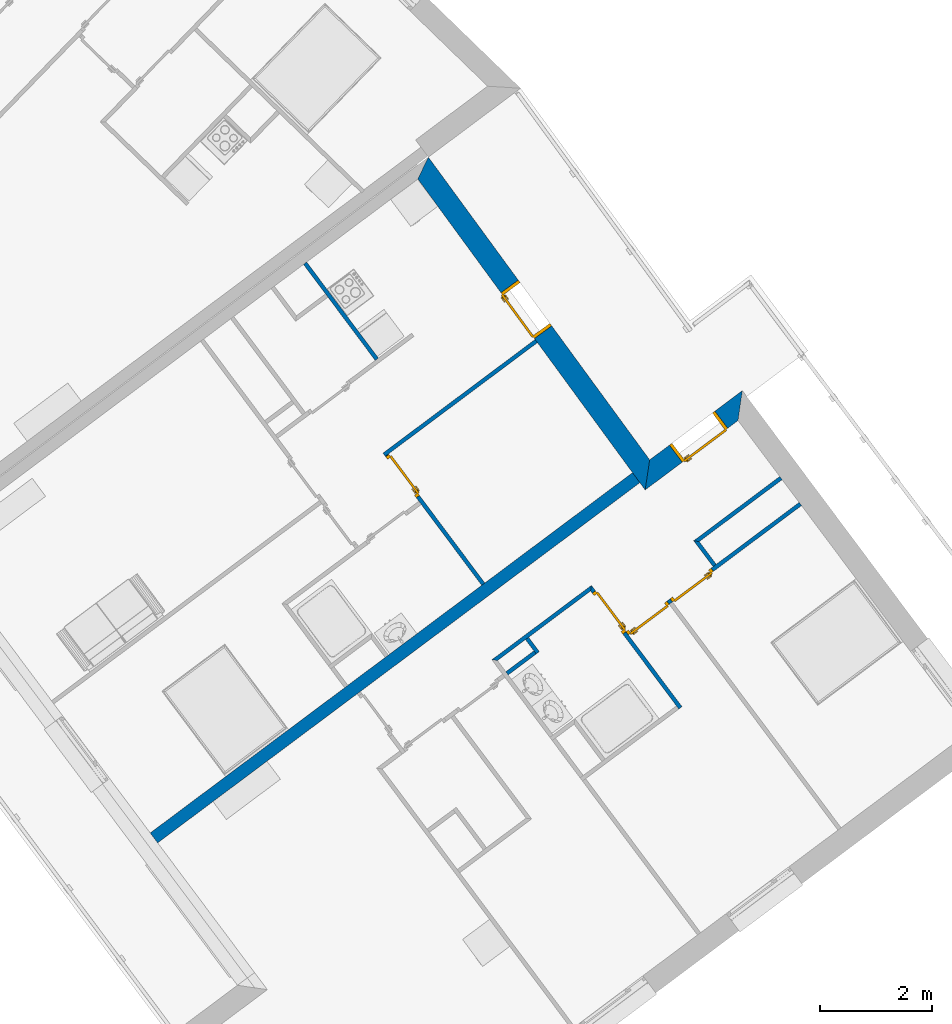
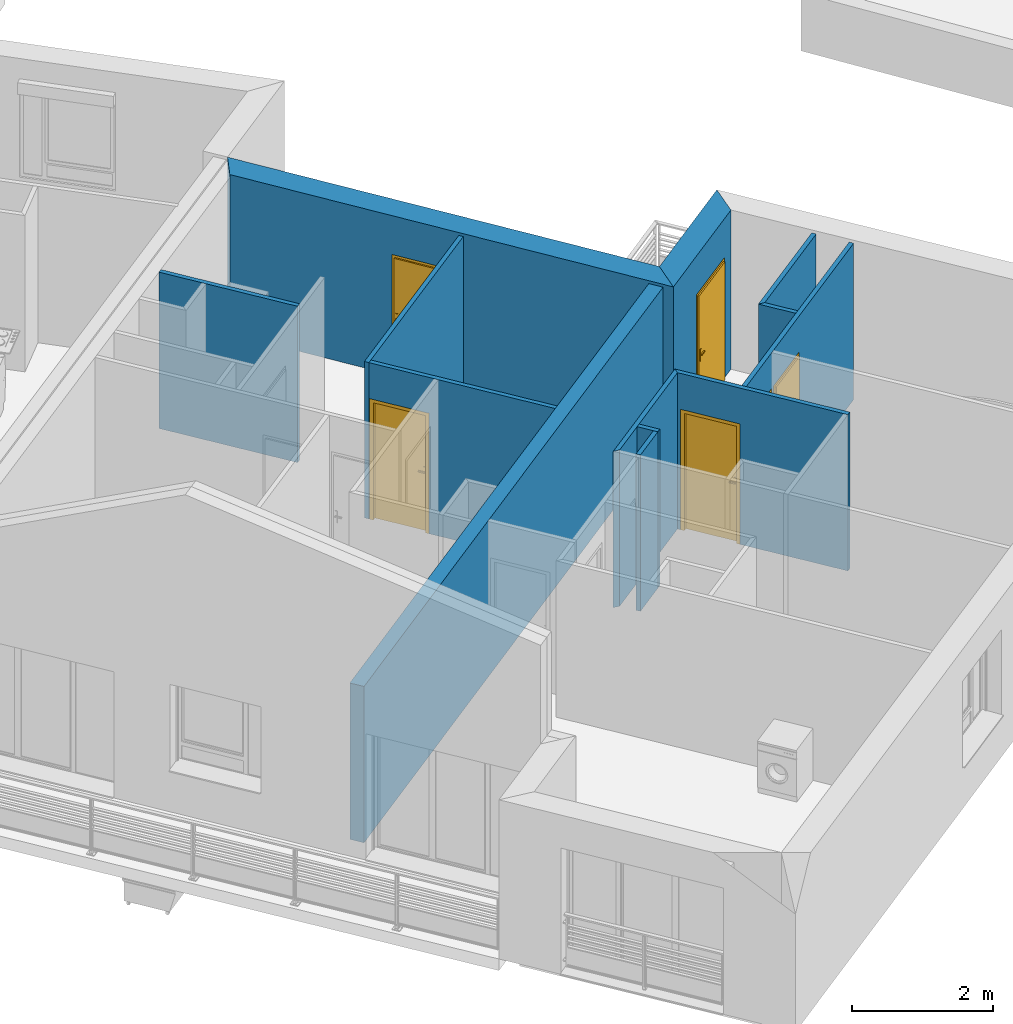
# One storey, part 7 of 121: 13 walls, 6 doors, 6 openings.
"""IFC2X3 building model written with IfcOpenShell, lengths in metres."""

from ifc_helpers import new_model, entity, si_unit, converted_unit, derived_unit, money_unit, direction, frame, origin_with_axes, origin_2d_with_axis, place, context, subcontext, project, spatial, polyline, rectangle, outline, extrude, faceted_brep, source, transform, mapped, material, layer, layer_set, layer_usage, type_object, element, fill, save


model = new_model("IFC2X3")

# Units and contexts
model_context = context("Model", 3, precision=1e-05, world=origin_with_axes(), true_north=direction((0.0, 1.0)))
body_context = subcontext(model_context, "Body", "Model", "MODEL_VIEW")
ifc_project = project(units=[si_unit("LENGTHUNIT", "METRE"), si_unit("AREAUNIT", "SQUARE_METRE"), si_unit("VOLUMEUNIT", "CUBIC_METRE"), converted_unit("PLANEANGLEUNIT", "DEGREE", entity("IfcPlaneAngleMeasure", 0.0174532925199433), si_unit("PLANEANGLEUNIT", "RADIAN"), dimensions=[0, 0, 0, 0, 0, 0, 0]), money_unit("CHF"), converted_unit("TIMEUNIT", "Year", entity("IfcTimeMeasure", 31557600.0), si_unit("TIMEUNIT", "SECOND"), dimensions=[0, 0, 1, 0, 0, 0, 0]), si_unit("MASSUNIT", "GRAM", prefix="KILO"), si_unit("THERMODYNAMICTEMPERATUREUNIT", "DEGREE_CELSIUS"), si_unit("LUMINOUSINTENSITYUNIT", "LUMEN"), si_unit("ENERGYUNIT", "JOULE", prefix="MEGA"), derived_unit("THERMALCONDUCTANCEUNIT", [(si_unit("POWERUNIT", "WATT"), 1), (si_unit("LENGTHUNIT", "METRE"), -1), (si_unit("THERMODYNAMICTEMPERATUREUNIT", "KELVIN"), -1)]), derived_unit("SPECIFICHEATCAPACITYUNIT", [(si_unit("ENERGYUNIT", "JOULE"), 1), (si_unit("MASSUNIT", "GRAM", prefix="KILO"), -1), (si_unit("THERMODYNAMICTEMPERATUREUNIT", "KELVIN"), -1)]), derived_unit("MASSDENSITYUNIT", [(si_unit("MASSUNIT", "GRAM", prefix="KILO"), 1), (si_unit("VOLUMEUNIT", "CUBIC_METRE"), -1)])], contexts=[model_context])

# Site, building, storey
site_placement = place(None, origin_with_axes())
site = spatial("IfcSite", under=ifc_project, at=site_placement, Name="Site", CompositionType="ELEMENT")
building_placement = place(site_placement, origin_with_axes())
building = spatial("IfcBuilding", under=site, at=building_placement, Name="Bâtiment", CompositionType="ELEMENT")
storey_placement = place(building_placement, frame((0.0, 0.0, 2.75), z_axis=(0.0, 0.0, 1.0), x_axis=(1.0, 0.0, 0.0)))
storey = spatial("IfcBuildingStorey", under=building, at=storey_placement, Name="Etage 1", CompositionType="ELEMENT", Elevation=2.75)

# Walls
ifc_material_1 = material(Name="Hachure solide 268963992")
ifc_layer_1 = layer(ifc_material_1, 0.07, ventilated="UNKNOWN")
ifc_layer_set_1 = layer_set([ifc_layer_1], Name="Cloison 70 0826278243")
ifc_layer_usage_1 = layer_usage(ifc_layer_set_1, "AXIS2", "NEGATIVE", 0.0)
wall_type_1 = type_object("IfcWallType", Name="Cloison 70 0826278243 70", PredefinedType="NOTDEFINED")
wall_1_placement = place(storey_placement, frame((9539.25298675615, -1078.22025807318, 57.7), z_axis=(0.0, 0.0, 1.0), x_axis=(0.5984464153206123, -0.8011628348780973, 0.0)))
element("IfcWallStandardCase", 1, at=wall_1_placement, inside=storey, type_object=wall_type_1, material=ifc_layer_usage_1, Name="Mur-149", context=body_context, shape_type="SweptSolid", body=[
    extrude(outline(polyline([(0.07000000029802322, -0.06999999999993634), (0.3899999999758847, -0.07000000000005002), (0.3899999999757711, 0.0), (0.07000000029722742, 0.0), (0.07000000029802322, -0.06999999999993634)])), origin_with_axes(), (0.0, 0.0, 1.0), 2.7),
])
ifc_layer_usage_2 = layer_usage(ifc_layer_set_1, "AXIS2", "NEGATIVE", 0.0)
wall_2_placement = place(storey_placement, frame((9538.888881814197, -1078.891653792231, 57.7), z_axis=(0.0, 0.0, 1.0), x_axis=(0.8011628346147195, 0.598446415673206, 0.0)))
element("IfcWallStandardCase", 2, at=wall_2_placement, inside=storey, type_object=wall_type_1, material=ifc_layer_usage_2, Name="Mur-149", context=body_context, shape_type="SweptSolid", body=[
    extrude(outline(polyline([(0.0, -0.07000000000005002), (0.6235017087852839, -0.07000000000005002), (0.623501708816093, 0.0), (0.0, 0.0), (0.0, -0.07000000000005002)])), origin_with_axes(), (0.0, 0.0, 1.0), 2.7),
])
ifc_layer_usage_3 = layer_usage(ifc_layer_set_1, "AXIS2", "NEGATIVE", 0.0)
wall_3_placement = place(storey_placement, frame((9539.757479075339, -1072.80087057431, 57.7), z_axis=(0.0, 0.0, 1.0), x_axis=(-0.8011623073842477, -0.5984471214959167, 0.0)))
element("IfcWallStandardCase", 3, at=wall_3_placement, inside=storey, type_object=wall_type_1, material=ifc_layer_usage_3, Name="Mur-149", context=body_context, shape_type="SweptSolid", body=[
    extrude(outline(polyline([(0.3793022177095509, -0.06999999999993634), (3.763144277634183, -0.06999999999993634), (3.763144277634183, 0.0), (0.3800199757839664, 0.0), (0.3793022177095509, -0.06999999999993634)])), origin_with_axes(), (0.0, 0.0, 1.0), 2.7),
])

# Wall, opening, door
ifc_layer_usage_4 = layer_usage(ifc_layer_set_1, "AXIS2", "NEGATIVE", 0.0)
wall_4_placement = place(storey_placement, frame((9536.798671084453, -1075.011022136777, 57.7), z_axis=(0.0, 0.0, 1.0), x_axis=(0.5984464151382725, -0.8011628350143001, 0.0)))
wall_4 = element("IfcWallStandardCase", 4, at=wall_4_placement, inside=storey, type_object=wall_type_1, material=ifc_layer_usage_4, Name="Mur-149", context=body_context, shape_type="SweptSolid", body=[
    extrude(outline(polyline([(6.146649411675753e-08, -0.07000000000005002), (2.869896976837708, -0.07000000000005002), (2.869896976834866, 0.0), (-2.499973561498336e-10, 0.0), (6.146649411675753e-08, -0.07000000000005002)])), origin_with_axes(), (0.0, 0.0, 1.0), 2.7),
])
opening_1_placement = place(wall_4_placement, frame((0.4678461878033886, 0.0, 0.0), z_axis=(0.0, 0.0, 1.0), x_axis=(1.0, 0.0, 0.0)))
opening_1 = element("IfcOpeningElement", 5, at=opening_1_placement, cuts=wall_4, Name="Por-308", context=body_context, shape_type="SweptSolid", body=[
    extrude(rectangle(XDim=0.9099999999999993, YDim=2.079999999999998, at=origin_2d_with_axis()), frame((0.0, -0.07000000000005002, 1.039999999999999), z_axis=(0.0, -1.0, 0.0), x_axis=(-1.0, 0.0, 0.0)), (0.0, 0.0, -1.0), 0.14),
])
door_style = type_object("IfcDoorStyle", Name="Porte_1v", ConstructionType="NOTDEFINED", OperationType="NOTDEFINED", ParameterTakesPrecedence=False, Sizeable=False)
shared_shape_1 = source(origin_with_axes(), body_context, "Body", "Brep", [
    faceted_brep([(-0.455, 0.0, 0.0), (-0.455, 0.0, 2.08), (0.455, 0.0, 2.08), (0.455, 0.0, 0.0), (0.415, 0.0, 0.0), (0.415, 0.0, 2.04), (-0.415, 0.0, 2.04), (-0.415, 0.0, 0.0), (-0.455, -0.07, 0.0), (-0.455, -0.07, 2.08), (0.455, -0.07, 2.08), (0.455, -0.07, 0.0), (0.4, -0.07, 0.0), (0.4, -0.015, 0.0), (0.415, -0.015, 0.0), (0.415, -0.015, 2.04), (-0.415, -0.015, 2.04), (-0.415, -0.015, 0.0), (-0.4, -0.015, 0.0), (-0.4, -0.07, 0.0), (-0.4, -0.07, 2.025), (0.4, -0.07, 2.025), (0.4, -0.015, 2.025), (-0.4, -0.015, 2.025)], [[[0, 1, 2, 3, 4, 5, 6, 7]], [[8, 9, 1, 0]], [[9, 10, 2, 1]], [[10, 11, 3, 2]], [[3, 11, 12, 13, 14, 4]], [[5, 4, 14, 15]], [[6, 5, 15, 16]], [[7, 6, 16, 17]], [[0, 7, 17, 18, 19, 8]], [[19, 20, 21, 12, 11, 10, 9, 8]], [[22, 13, 12, 21]], [[17, 16, 15, 14, 13, 22, 23, 18]], [[18, 23, 20, 19]], [[23, 22, 21, 20]]]),
    faceted_brep([(0.35, -0.015, 0.9), (0.35, -0.015, 1.1), (0.39, -0.015, 1.1), (0.39, -0.015, 0.9), (0.35, -0.025, 0.9), (0.35, -0.025, 1.1), (0.39, -0.025, 1.1), (0.39, -0.025, 0.9)], [[[0, 1, 2, 3]], [[0, 4, 5, 1]], [[1, 5, 6, 2]], [[2, 6, 7, 3]], [[3, 7, 4, 0]], [[7, 6, 5, 4]]]),
    faceted_brep([(0.28, -0.025, 1.0), (0.28, -0.025, 1.02), (0.38, -0.025, 1.02), (0.38, -0.025, 1.0), (0.28, -0.045, 1.0), (0.28, -0.045, 1.02), (0.38, -0.045, 1.02), (0.38, -0.045, 1.0)], [[[0, 1, 2, 3]], [[0, 4, 5, 1]], [[1, 5, 6, 2]], [[2, 6, 7, 3]], [[3, 7, 4, 0]], [[7, 6, 5, 4]]]),
    faceted_brep([(0.35, 0.035, 0.9), (0.35, 0.035, 1.1), (0.39, 0.035, 1.1), (0.39, 0.035, 0.9), (0.35, 0.025, 0.9), (0.35, 0.025, 1.1), (0.39, 0.025, 1.1), (0.39, 0.025, 0.9)], [[[0, 1, 2, 3]], [[0, 4, 5, 1]], [[1, 5, 6, 2]], [[2, 6, 7, 3]], [[3, 7, 4, 0]], [[7, 6, 5, 4]]]),
    faceted_brep([(0.28, 0.05500000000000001, 1.0), (0.28, 0.05500000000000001, 1.02), (0.38, 0.05500000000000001, 1.02), (0.38, 0.05500000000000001, 1.0), (0.28, 0.035, 1.0), (0.28, 0.035, 1.02), (0.38, 0.035, 1.02), (0.38, 0.035, 1.0)], [[[0, 1, 2, 3]], [[0, 4, 5, 1]], [[1, 5, 6, 2]], [[2, 6, 7, 3]], [[3, 7, 4, 0]], [[7, 6, 5, 4]]]),
    faceted_brep([(0.415, 0.025, 0.0), (0.415, -0.015, 0.0), (-0.415, -0.015, 0.0), (-0.415, 0.025, 0.0), (0.415, 0.025, 2.04), (0.415, -0.015, 2.04), (-0.415, -0.015, 2.04), (-0.415, 0.025, 2.04)], [[[0, 1, 2, 3]], [[4, 5, 1, 0]], [[1, 5, 6, 2]], [[3, 2, 6, 7]], [[0, 3, 7, 4]], [[7, 6, 5, 4]]]),
])
door_1_placement = place(opening_1_placement, frame((-0.4150000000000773, 0.0, 0.0), z_axis=(0.0, 0.0, 1.0), x_axis=(1.0, 0.0, 0.0)))
door_1 = element("IfcDoor", 6, at=door_1_placement, inside=storey, type_object=door_style, Name="Por-308", OverallHeight=2.04, OverallWidth=0.83, context=body_context, shape_type="MappedRepresentation", body=[
    mapped(shared_shape_1, transform((0.4149999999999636, 0.0, 0.0))),
])
fill(opening_1, door_1)

ifc_layer_usage_5 = layer_usage(ifc_layer_set_1, "AXIS2", "POSITIVE", 0.0)
wall_5_placement = place(storey_placement, frame((9540.357507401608, -1077.395211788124, 57.7), z_axis=(0.0, 0.0, 1.0), x_axis=(0.5984464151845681, -0.8011628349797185, 0.0)))
wall_5 = element("IfcWallStandardCase", 7, at=wall_5_placement, inside=storey, type_object=wall_type_1, material=ifc_layer_usage_5, Name="Mur-149", context=body_context, shape_type="SweptSolid", body=[
    extrude(outline(polyline([(0.07000000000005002, 0.0), (2.695267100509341, 0.0), (2.695267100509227, 0.06999999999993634), (0.0, 0.07000000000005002), (0.07000000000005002, 0.0)])), origin_with_axes(), (0.0, 0.0, 1.0), 2.7),
])
opening_2_placement = place(wall_5_placement, frame((0.5749999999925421, 0.0, 0.0), z_axis=(0.0, 0.0, 1.0), x_axis=(1.0, 0.0, 0.0)))
opening_2 = element("IfcOpeningElement", 8, at=opening_2_placement, cuts=wall_5, Name="Por-308", context=body_context, shape_type="SweptSolid", body=[
    extrude(rectangle(XDim=0.9099999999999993, YDim=2.079999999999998, at=origin_2d_with_axis()), frame((0.0, -0.07000000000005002, 1.039999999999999), z_axis=(0.0, -1.0, 0.0), x_axis=(-1.0, 0.0, 0.0)), (0.0, 0.0, -1.0), 0.14),
])
door_2_placement = place(opening_2_placement, frame((-0.4149999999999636, 0.0, 0.0), z_axis=(0.0, 0.0, 1.0), x_axis=(1.0, 0.0, 0.0)))
door_2 = element("IfcDoor", 9, at=door_2_placement, inside=storey, type_object=door_style, Name="Por-308", OverallHeight=2.04, OverallWidth=0.83, context=body_context, shape_type="MappedRepresentation", body=[
    mapped(shared_shape_1, transform((0.4150000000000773, 0.07000000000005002, 0.0))),
])
fill(opening_2, door_2)

# Wall
ifc_layer_usage_6 = layer_usage(ifc_layer_set_1, "AXIS2", "NEGATIVE", 0.0)
wall_6_placement = place(storey_placement, frame((9542.236059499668, -1076.557805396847, 57.7), z_axis=(0.0, 0.0, 1.0), x_axis=(0.8011628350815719, 0.5984464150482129, 0.0)))
element("IfcWallStandardCase", 10, at=wall_6_placement, inside=storey, type_object=wall_type_1, material=ifc_layer_usage_6, Name="Mur-149", context=body_context, shape_type="SweptSolid", body=[
    extrude(outline(polyline([(0.0700000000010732, -0.07000000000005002), (1.913437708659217, -0.07000000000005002), (1.913437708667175, 0.0), (0.0, 0.0), (0.0700000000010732, -0.07000000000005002)])), origin_with_axes(), (0.0, 0.0, 1.0), 2.7),
])

# Wall, openings, doors
ifc_layer_usage_7 = layer_usage(ifc_layer_set_1, "AXIS2", "NEGATIVE", 0.0)
wall_7_placement = place(storey_placement, frame((9540.97390720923, -1078.220409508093, 57.7), z_axis=(0.0, 0.0, 1.0), x_axis=(0.8011628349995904, 0.5984464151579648, 0.0)))
wall_7 = element("IfcWallStandardCase", 11, at=wall_7_placement, inside=storey, type_object=wall_type_1, material=ifc_layer_usage_7, Name="Mur-149", context=body_context, shape_type="SweptSolid", body=[
    extrude(outline(polyline([(0.06999999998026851, -0.07000000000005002), (3.919606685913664, -0.07000000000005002), (3.919606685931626, 0.0), (0.06999999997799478, 0.0), (0.06999999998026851, -0.07000000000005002)])), origin_with_axes(), (0.0, 0.0, 1.0), 2.7),
])
opening_3_placement = place(wall_7_placement, frame((1.504999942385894, 0.0, 0.0), z_axis=(0.0, 0.0, 1.0), x_axis=(1.0, 0.0, 0.0)))
opening_3 = element("IfcOpeningElement", 12, at=opening_3_placement, cuts=wall_7, Name="Por-308", context=body_context, shape_type="SweptSolid", body=[
    extrude(rectangle(XDim=0.9099999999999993, YDim=2.079999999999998, at=origin_2d_with_axis()), frame((0.0, 0.07000000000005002, 1.039999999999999), z_axis=(0.0, -1.0, 0.0), x_axis=(-1.0, 0.0, 0.0)), (0.0, 0.0, 1.0), 0.14),
])
opening_4_placement = place(wall_7_placement, frame((0.5249999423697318, 0.0, 0.0), z_axis=(0.0, 0.0, 1.0), x_axis=(1.0, 0.0, 0.0)))
opening_4 = element("IfcOpeningElement", 13, at=opening_4_placement, cuts=wall_7, Name="Por-308", context=body_context, shape_type="SweptSolid", body=[
    extrude(rectangle(XDim=0.9099999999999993, YDim=2.079999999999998, at=origin_2d_with_axis()), frame((0.0, 0.07000000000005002, 1.039999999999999), z_axis=(0.0, 1.0, 0.0), x_axis=(1.0, 0.0, 0.0)), (0.0, 0.0, -1.0), 0.14),
])
shared_shape_2 = source(origin_with_axes(), body_context, "Body", "Brep", [
    faceted_brep([(0.455, 0.0, 0.0), (0.415, 0.0, 0.0), (0.415, 0.0, 2.04), (-0.415, 0.0, 2.04), (-0.415, 0.0, 0.0), (-0.455, 0.0, 0.0), (-0.455, 0.0, 2.08), (0.455, 0.0, 2.08), (0.455, -0.07, 0.0), (0.4, -0.07, 0.0), (0.4, -0.015, 0.0), (0.415, -0.015, 0.0), (0.415, -0.015, 2.04), (-0.415, -0.015, 2.04), (-0.415, -0.015, 0.0), (-0.4, -0.015, 0.0), (-0.4, -0.07, 0.0), (-0.455, -0.07, 0.0), (-0.455, -0.07, 2.08), (0.455, -0.07, 2.08), (-0.4, -0.07, 2.025), (0.4, -0.07, 2.025), (0.4, -0.015, 2.025), (-0.4, -0.015, 2.025)], [[[0, 1, 2, 3, 4, 5, 6, 7]], [[0, 8, 9, 10, 11, 1]], [[1, 11, 12, 2]], [[2, 12, 13, 3]], [[3, 13, 14, 4]], [[5, 4, 14, 15, 16, 17]], [[18, 6, 5, 17]], [[19, 7, 6, 18]], [[8, 0, 7, 19]], [[9, 8, 19, 18, 17, 16, 20, 21]], [[10, 9, 21, 22]], [[11, 10, 22, 23, 15, 14, 13, 12]], [[23, 20, 16, 15]], [[22, 21, 20, 23]]]),
    faceted_brep([(-0.35, -0.015, 0.9), (-0.39, -0.015, 0.9), (-0.39, -0.015, 1.1), (-0.35, -0.015, 1.1), (-0.35, -0.025, 0.9), (-0.39, -0.025, 0.9), (-0.39, -0.025, 1.1), (-0.35, -0.025, 1.1)], [[[0, 1, 2, 3]], [[1, 0, 4, 5]], [[2, 1, 5, 6]], [[3, 2, 6, 7]], [[0, 3, 7, 4]], [[5, 4, 7, 6]]]),
    faceted_brep([(-0.28, -0.025, 1.0), (-0.38, -0.025, 1.0), (-0.38, -0.025, 1.02), (-0.28, -0.025, 1.02), (-0.28, -0.045, 1.0), (-0.38, -0.045, 1.0), (-0.38, -0.045, 1.02), (-0.28, -0.045, 1.02)], [[[0, 1, 2, 3]], [[1, 0, 4, 5]], [[2, 1, 5, 6]], [[3, 2, 6, 7]], [[0, 3, 7, 4]], [[5, 4, 7, 6]]]),
    faceted_brep([(-0.35, 0.035, 0.9), (-0.39, 0.035, 0.9), (-0.39, 0.035, 1.1), (-0.35, 0.035, 1.1), (-0.35, 0.025, 0.9), (-0.39, 0.025, 0.9), (-0.39, 0.025, 1.1), (-0.35, 0.025, 1.1)], [[[0, 1, 2, 3]], [[1, 0, 4, 5]], [[2, 1, 5, 6]], [[3, 2, 6, 7]], [[0, 3, 7, 4]], [[5, 4, 7, 6]]]),
    faceted_brep([(-0.28, 0.05500000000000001, 1.0), (-0.38, 0.05500000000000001, 1.0), (-0.38, 0.05500000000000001, 1.02), (-0.28, 0.05500000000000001, 1.02), (-0.28, 0.035, 1.0), (-0.38, 0.035, 1.0), (-0.38, 0.035, 1.02), (-0.28, 0.035, 1.02)], [[[0, 1, 2, 3]], [[1, 0, 4, 5]], [[2, 1, 5, 6]], [[3, 2, 6, 7]], [[0, 3, 7, 4]], [[5, 4, 7, 6]]]),
    faceted_brep([(-0.415, 0.025, 0.0), (0.415, 0.025, 0.0), (0.415, -0.015, 0.0), (-0.415, -0.015, 0.0), (-0.415, 0.025, 2.04), (0.415, 0.025, 2.04), (0.415, -0.015, 2.04), (-0.415, -0.015, 2.04)], [[[0, 1, 2, 3]], [[0, 4, 5, 1]], [[1, 5, 6, 2]], [[3, 2, 6, 7]], [[4, 0, 3, 7]], [[5, 4, 7, 6]]]),
])
door_3_placement = place(opening_3_placement, frame((0.4150000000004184, 0.0, 0.0), z_axis=(0.0, 0.0, 1.0), x_axis=(-1.0, 0.0, 0.0)))
door_3 = element("IfcDoor", 14, at=door_3_placement, inside=storey, type_object=door_style, Name="Por-308", OverallHeight=2.04, OverallWidth=0.83, context=body_context, shape_type="MappedRepresentation", body=[
    mapped(shared_shape_2, transform((0.4150000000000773, 0.06999999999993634, 0.0))),
])
fill(opening_3, door_3)
door_4_placement = place(opening_4_placement, frame((0.4150000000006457, 0.0, 0.0), z_axis=(0.0, 0.0, 1.0), x_axis=(-1.0, 0.0, 0.0)))
door_4 = element("IfcDoor", 15, at=door_4_placement, inside=storey, type_object=door_style, Name="Por-308", OverallHeight=2.04, OverallWidth=0.83, context=body_context, shape_type="MappedRepresentation", body=[
    mapped(shared_shape_1, transform((0.4150000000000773, 0.06999999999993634, 0.0))),
])
fill(opening_4, door_4)

# Walls
ifc_layer_usage_8 = layer_usage(ifc_layer_set_1, "AXIS2", "POSITIVE", 0.0)
wall_8_placement = place(storey_placement, frame((9542.236059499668, -1076.557805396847, 57.7), z_axis=(0.0, 0.0, 1.0), x_axis=(0.5984464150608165, -0.8011628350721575, 0.0)))
element("IfcWallStandardCase", 16, at=wall_8_placement, inside=storey, type_object=wall_type_1, material=ifc_layer_usage_8, Name="Mur-149", context=body_context, shape_type="SweptSolid", body=[
    extrude(outline(polyline([(0.0, 0.0), (0.5766861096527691, 0.0), (0.5766861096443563, 0.07000000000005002), (0.07000000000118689, 0.07000000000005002), (0.0, 0.0)])), origin_with_axes(), (0.0, 0.0, 1.0), 2.7),
])
ifc_layer_usage_9 = layer_usage(ifc_layer_set_1, "AXIS2", "NEGATIVE", 0.0)
wall_9_placement = place(storey_placement, frame((9538.697378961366, -1078.635281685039, 57.7), z_axis=(0.0, 0.0, 1.0), x_axis=(0.8011628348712, 0.5984464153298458, 0.0)))
element("IfcWallStandardCase", 17, at=wall_9_placement, inside=storey, type_object=wall_type_1, material=ifc_layer_usage_9, Name="Mur-149", context=body_context, shape_type="SweptSolid", body=[
    extrude(outline(polyline([(0.0, -0.06999999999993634), (2.072148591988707, -0.07000000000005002), (2.142148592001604, 0.0), (-0.07000000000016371, 0.0), (0.0, -0.06999999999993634)])), origin_with_axes(), (0.0, 0.0, 1.0), 2.7),
])
ifc_layer_usage_10 = layer_usage(ifc_layer_set_1, "AXIS2", "NEGATIVE", 0.0)
wall_10_placement = place(storey_placement, frame((9535.341654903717, -1071.593293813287, 57.7), z_axis=(0.0, 0.0, 1.0), x_axis=(0.5984464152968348, -0.8011628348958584, 0.0)))
element("IfcWallStandardCase", 18, at=wall_10_placement, inside=storey, type_object=wall_type_1, material=ifc_layer_usage_10, Name="Mur-149", context=body_context, shape_type="SweptSolid", body=[
    extrude(outline(polyline([(0.0, -0.07000000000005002), (2.135506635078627, -0.07000000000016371), (2.135506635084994, 0.0), (0.0, 0.0), (0.0, -0.07000000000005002)])), origin_with_axes(), (0.0, 0.0, 1.0), 2.7),
])

# Wall, opening, door
ifc_material_2 = material(Name="Parpaing 312445824")
ifc_layer_2 = layer(ifc_material_2, 0.22, ventilated="UNKNOWN")
ifc_material_3 = material(Name="Isolant styromousse 301821074")
ifc_layer_3 = layer(ifc_material_3, 0.16, ventilated="UNKNOWN")
ifc_layer_set_2 = layer_set([ifc_layer_2, ifc_layer_3], Name="isol int 22+16 0836643197")
ifc_layer_usage_11 = layer_usage(ifc_layer_set_2, "AXIS2", "POSITIVE", 0.0)
wall_type_2 = type_object("IfcWallType", Name="isol int 22+16 0836643197 380", PredefinedType="NOTDEFINED")
wall_11_placement = place(storey_placement, frame((9543.102010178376, -1073.884767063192, 57.7), z_axis=(0.0, 0.0, 1.0), x_axis=(-0.8011628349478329, -0.5984464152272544, 0.0)))
wall_11 = element("IfcWallStandardCase", 19, at=wall_11_placement, inside=storey, type_object=wall_type_2, material=ifc_layer_usage_11, Name="Mur-113", context=body_context, shape_type="SweptSolid", body=[
    extrude(outline(polyline([(0.0, 0.0), (2.060284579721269, 0.0), (2.444200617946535, 0.3799999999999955), (0.3800000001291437, 0.3799999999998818), (0.0, 0.0)])), origin_with_axes(), (0.0, 0.0, 1.0), 2.75),
])
opening_5_placement = place(wall_11_placement, frame((1.114358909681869, 0.0, 0.0), z_axis=(0.0, 0.0, 1.0), x_axis=(1.0, 0.0, 0.0)))
opening_5 = element("IfcOpeningElement", 20, at=opening_5_placement, cuts=wall_11, Name="Por-303", context=body_context, shape_type="SweptSolid", body=[
    extrude(rectangle(XDim=1.01000001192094, YDim=2.079999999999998, at=origin_2d_with_axis()), frame((-5.960487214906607e-09, -0.3799999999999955, 1.039999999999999), z_axis=(0.0, -1.0, 0.0), x_axis=(-1.0, 0.0, 0.0)), (0.0, 0.0, -1.0), 0.76),
])
shared_shape_3 = source(origin_with_axes(), body_context, "Body", "Brep", [
    faceted_brep([(-0.505, 0.0, 0.0), (-0.505, 0.0, 2.08), (0.505, 0.0, 2.08), (0.505, 0.0, 0.0), (0.465, 0.0, 0.0), (0.465, 0.0, 2.04), (-0.465, 0.0, 2.04), (-0.465, 0.0, 0.0), (-0.505, -0.38, 0.0), (-0.505, -0.38, 2.08), (0.505, -0.38, 2.08), (0.505, -0.38, 0.0), (0.45, -0.38, 0.0), (0.45, -0.015, 0.0), (0.465, -0.015, 0.0), (0.465, -0.015, 2.04), (-0.465, -0.015, 2.04), (-0.465, -0.015, 0.0), (-0.45, -0.015, 0.0), (-0.45, -0.38, 0.0), (-0.45, -0.38, 2.025), (0.45, -0.38, 2.025), (0.45, -0.015, 2.025), (-0.45, -0.015, 2.025)], [[[0, 1, 2, 3, 4, 5, 6, 7]], [[8, 9, 1, 0]], [[9, 10, 2, 1]], [[10, 11, 3, 2]], [[3, 11, 12, 13, 14, 4]], [[5, 4, 14, 15]], [[6, 5, 15, 16]], [[7, 6, 16, 17]], [[0, 7, 17, 18, 19, 8]], [[19, 20, 21, 12, 11, 10, 9, 8]], [[22, 13, 12, 21]], [[17, 16, 15, 14, 13, 22, 23, 18]], [[18, 23, 20, 19]], [[23, 22, 21, 20]]]),
    faceted_brep([(0.4, -0.015, 0.9), (0.4, -0.015, 1.1), (0.44, -0.015, 1.1), (0.44, -0.015, 0.9), (0.4, -0.025, 0.9), (0.4, -0.025, 1.1), (0.44, -0.025, 1.1), (0.44, -0.025, 0.9)], [[[0, 1, 2, 3]], [[0, 4, 5, 1]], [[1, 5, 6, 2]], [[2, 6, 7, 3]], [[3, 7, 4, 0]], [[7, 6, 5, 4]]]),
    faceted_brep([(0.33, -0.025, 1.0), (0.33, -0.025, 1.02), (0.43, -0.025, 1.02), (0.43, -0.025, 1.0), (0.33, -0.045, 1.0), (0.33, -0.045, 1.02), (0.43, -0.045, 1.02), (0.43, -0.045, 1.0)], [[[0, 1, 2, 3]], [[0, 4, 5, 1]], [[1, 5, 6, 2]], [[2, 6, 7, 3]], [[3, 7, 4, 0]], [[7, 6, 5, 4]]]),
    faceted_brep([(0.4, 0.035, 0.9), (0.4, 0.035, 1.1), (0.44, 0.035, 1.1), (0.44, 0.035, 0.9), (0.4, 0.025, 0.9), (0.4, 0.025, 1.1), (0.44, 0.025, 1.1), (0.44, 0.025, 0.9)], [[[0, 1, 2, 3]], [[0, 4, 5, 1]], [[1, 5, 6, 2]], [[2, 6, 7, 3]], [[3, 7, 4, 0]], [[7, 6, 5, 4]]]),
    faceted_brep([(0.33, 0.05500000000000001, 1.0), (0.33, 0.05500000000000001, 1.02), (0.43, 0.05500000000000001, 1.02), (0.43, 0.05500000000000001, 1.0), (0.33, 0.035, 1.0), (0.33, 0.035, 1.02), (0.43, 0.035, 1.02), (0.43, 0.035, 1.0)], [[[0, 1, 2, 3]], [[0, 4, 5, 1]], [[1, 5, 6, 2]], [[2, 6, 7, 3]], [[3, 7, 4, 0]], [[7, 6, 5, 4]]]),
    faceted_brep([(0.465, 0.025, 0.0), (0.465, -0.015, 0.0), (-0.465, -0.015, 0.0), (-0.465, 0.025, 0.0), (0.465, 0.025, 2.04), (0.465, -0.015, 2.04), (-0.465, -0.015, 2.04), (-0.465, 0.025, 2.04)], [[[0, 1, 2, 3]], [[4, 5, 1, 0]], [[1, 5, 6, 2]], [[3, 2, 6, 7]], [[0, 3, 7, 4]], [[7, 6, 5, 4]]]),
])
door_5_placement = place(opening_5_placement, frame((-0.4650000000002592, 0.0, 0.0), z_axis=(0.0, 0.0, 1.0), x_axis=(1.0, 0.0, 0.0)))
door_5 = element("IfcDoor", 21, at=door_5_placement, inside=storey, type_object=door_style, Name="Por-303", OverallHeight=2.04, OverallWidth=0.93, context=body_context, shape_type="MappedRepresentation", body=[
    mapped(shared_shape_3, transform((0.4650000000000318, 0.3799999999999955, 0.0))),
])
fill(opening_5, door_5)

ifc_layer_usage_12 = layer_usage(ifc_layer_set_2, "AXIS2", "POSITIVE", 0.0)
wall_12_placement = place(storey_placement, frame((9541.451386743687, -1075.117736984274, 57.7), z_axis=(0.0, 0.0, 1.0), x_axis=(-0.5902012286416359, 0.8072561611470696, 0.0)))
wall_12 = element("IfcWallStandardCase", 22, at=wall_12_placement, inside=storey, type_object=wall_type_2, material=ifc_layer_usage_12, Name="Mur-113", context=body_context, shape_type="SweptSolid", body=[
    extrude(outline(polyline([(0.0, 0.0), (6.680339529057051, 0.0), (6.47645044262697, 0.3799999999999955), (-0.3839160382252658, 0.3799999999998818), (0.0, 0.0)])), origin_with_axes(), (0.0, 0.0, 1.0), 2.75),
])
opening_6_placement = place(wall_12_placement, frame((3.462250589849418, 0.0, 0.0), z_axis=(0.0, 0.0, 1.0), x_axis=(1.0, 0.0, 0.0)))
opening_6 = element("IfcOpeningElement", 23, at=opening_6_placement, cuts=wall_12, Name="Por-303", context=body_context, shape_type="SweptSolid", body=[
    extrude(rectangle(XDim=1.01000001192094, YDim=2.079999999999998, at=origin_2d_with_axis()), frame((-5.960373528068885e-09, -0.3799999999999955, 1.039999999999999), z_axis=(0.0, -1.0, 0.0), x_axis=(-1.0, 0.0, 0.0)), (0.0, 0.0, -1.0), 0.76),
])
door_6_placement = place(opening_6_placement, frame((-0.4649999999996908, 0.0, 0.0), z_axis=(0.0, 0.0, 1.0), x_axis=(1.0, 0.0, 0.0)))
door_6 = element("IfcDoor", 24, at=door_6_placement, inside=storey, type_object=door_style, Name="Por-303", OverallHeight=2.04, OverallWidth=0.93, context=body_context, shape_type="MappedRepresentation", body=[
    mapped(shared_shape_3, transform((0.4649999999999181, 0.3799999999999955, 0.0))),
])
fill(opening_6, door_6)

# Wall
ifc_layer_4 = layer(ifc_material_2, 0.22, ventilated="UNKNOWN")
ifc_layer_set_3 = layer_set([ifc_layer_4], Name="Beton  22 0836643198")
ifc_layer_usage_13 = layer_usage(ifc_layer_set_3, "AXIS2", "POSITIVE", 0.0)
wall_type_3 = type_object("IfcWallType", Name="Beton  22 0836643198 220", PredefinedType="NOTDEFINED")
wall_13_placement = place(storey_placement, frame((9541.451386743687, -1075.117736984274, 57.7), z_axis=(0.0, 0.0, 1.0), x_axis=(-0.8011628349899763, -0.5984464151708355, 0.0)))
element("IfcWallStandardCase", 25, at=wall_13_placement, inside=storey, type_object=wall_type_3, material=ifc_layer_usage_13, Name="Mur-105", context=body_context, shape_type="SweptSolid", body=[
    extrude(outline(polyline([(0.3800199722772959, 0.0), (11.10284737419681, 0.0), (11.10284737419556, 0.2200000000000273), (0.3822755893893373, 0.2200000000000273), (0.3800199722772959, 0.0)])), origin_with_axes(), (0.0, 0.0, 1.0), 2.7),
])

save(model, "model.ifc")
